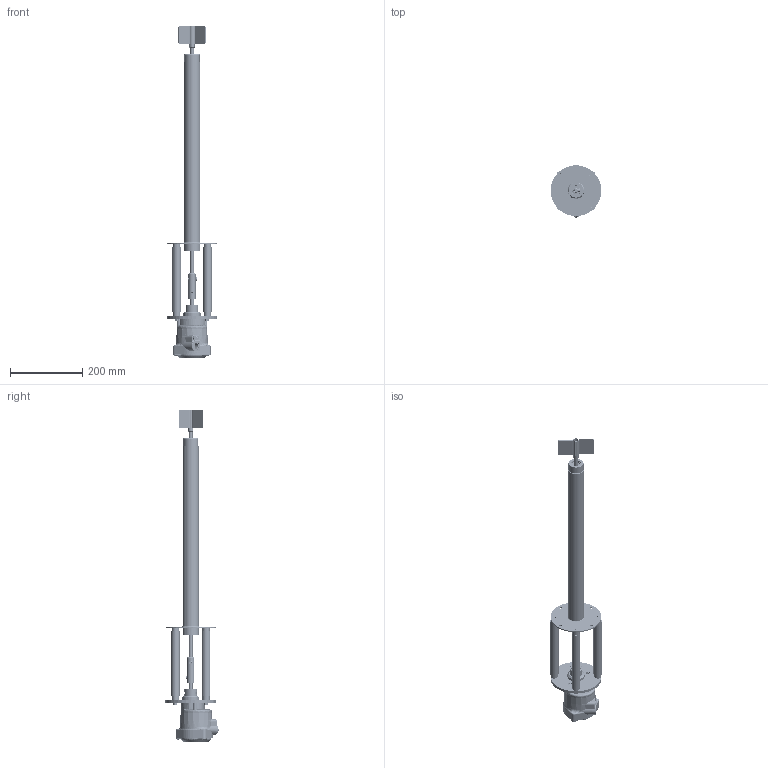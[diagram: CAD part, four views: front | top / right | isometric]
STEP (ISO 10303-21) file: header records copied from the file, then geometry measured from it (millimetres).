
FILE_DESCRIPTION(/* description */ ('PFG57ATFV600 L.600 STD AC3INOX4'),/* implementation_level */ '2;1');
FILE_NAME(/* name */ '0800_0146_02-00.stp',/* time_stamp */ '2026-07-02T10:05:42+02:00',/* author */ ('sabrina.colli'),/* organization */ (''),/* preprocessor_version */ 'ST-DEVELOPER v20',/* originating_system */ 'Autodesk Inventor 2024',/* authorisation */ '');
FILE_SCHEMA (('AUTOMOTIVE_DESIGN { 1 0 10303 214 3 1 1 }'));
Products named in the file (85): 0800_0146_02; SG02_0182_09; 0107_0003_00; 0105_0007_00; 0115_0043_00; 0115_0028_00; 0100_0132_00; SG05_0012_00; 0115_0011_00; 0404_0004_00; 0404_0004_00_1; 0404_0026_02; 0404_0056_02; SG07_0077_02; 0401_0074_00; 0101_0007_00; 0104_0002_00; 0104_0001_00; 0111_0003_00; 0113_0008_00; 0115_0009_00; 0213_0006_00; SG01_0108_00; 0413_0005_02; 0413_0006_02; 0115_0051_00; 0415_0018_00; SG08_0004_01; 0402_0017_00; 0111_0019_00; 0303_0028_00; 0303_0015_00; SG10_0004_00; 0110_0014_00; 0115_0002_00; 0115_0004_00; 0410_0067_00; SG14_0006_01; SG06_0006_01; 0211_0004_00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
Assembly tree (117 placements, depth 5):
  0800_0146_02
    SG02_0182_09
      0107_0003_00
      0105_0007_00
      0115_0043_00
      0115_0028_00
      0100_0132_00
    SG05_0012_00
      0115_0011_00
      0404_0004_00
        0404_0004_00_1
        0404_0026_02
        0404_0056_02  x2
    SG07_0077_02
      0401_0074_00
      0101_0007_00
      0104_0002_00
      0104_0001_00
      0111_0003_00
      0113_0008_00
      0115_0009_00
      0213_0006_00
      SG01_0108_00
        0413_0005_02
        0413_0006_02
        0115_0051_00
        0415_0018_00
    SG08_0004_01
      0402_0017_00
      0111_0019_00
      0303_0028_00
      0303_0015_00
    SG10_0004_00
      0110_0014_00
      0115_0002_00  x2
      0115_0004_00  x3
      0410_0067_00
    SG14_0006_01
      SG06_0006_01
        0211_0004_00
        0410_0015_00
        0115_0032_00  x2
      SG09_0034_01
        0223_0063_02
          0203_0044_02
          0204_0005_02  x2
          0204_0051_02
          0204_0062_02
          0204_0065_02
          0206_0010_02  x4
          0206_0018_02
          0207_0019_02
          0210_0001_02  x2
          0212_0002_00  x4
          0217_0029_02  x2
          0217_0034_02  x2
          0217_0063_02
          0217_0064_02
          0220_0004_02
          0220_0011_02
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Bounding box: 140 x 147.06 x 919 mm (x, y, z)
Volume: 986662.3 mm3; surface area: 669270.4 mm2
Topology: 151 solids, 154 shells, 8992 faces, 23749 edges, 15202 vertices
Faces by surface type: plane 4812, cylinder 2386, bspline 597, cone 527, torus 488, sphere 182
Full cylindrical faces by diameter (mm): 0.163 x1, 0.242 x1, 0.487 x1, 0.5 x1, 0.75 x3, 0.8 x35, 0.813 x2, 0.919 x1, 0.938 x1, 1 x6, 1.001 x1, 1.3 x4, 1.4 x6, 1.5 x31, 1.6 x4, 1.7 x3, 2 x16, 2.3 x4, 2.319 x3, 2.4 x2, 2.459 x1, 2.5 x24, 2.6 x2, 2.7 x3, 2.729 x3, 2.989 x1, 2.993 x1, 3 x14, 3.2 x1, 3.5 x5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
Entity records: 276684 total; most frequent: CARTESIAN_POINT 76434, ORIENTED_EDGE 41038, DIRECTION 38932, EDGE_CURVE 20521, VERTEX_POINT 13304, AXIS2_PLACEMENT_3D 13189, LINE 12554, VECTOR 12554
